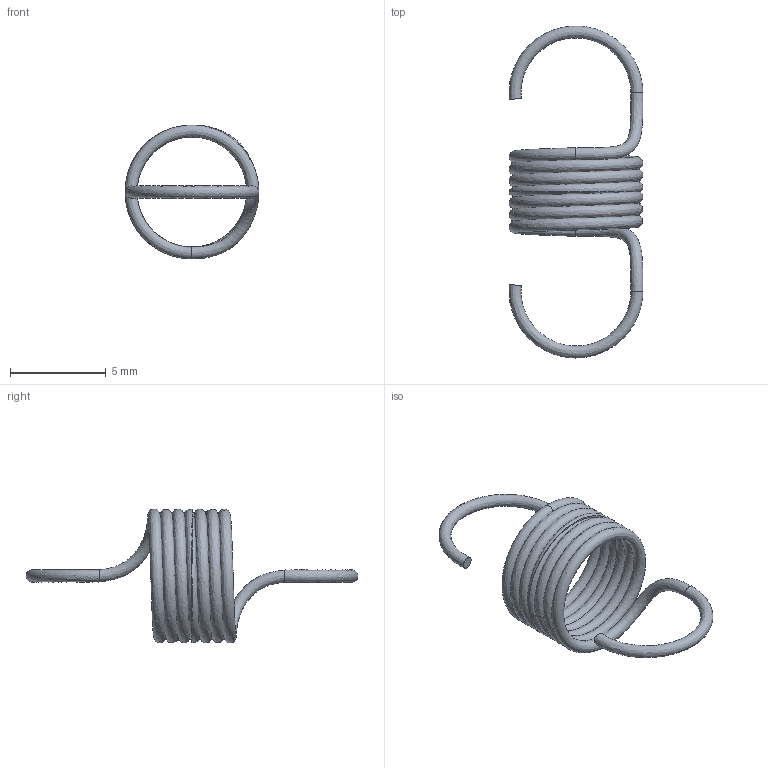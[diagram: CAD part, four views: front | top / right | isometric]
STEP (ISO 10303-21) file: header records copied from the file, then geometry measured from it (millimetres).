
FILE_DESCRIPTION(/* description */ ('12.2 | 0,62 | 0'),/* implementation_level */ '2;1');
FILE_NAME(/* name */ 'T10420.step',/* time_stamp */ '2026-10-05T09:48:21+02:00',/* author */ ('impex-ready.pl'),/* organization */ ('T10420'),/* preprocessor_version */ 'ST-DEVELOPER v20.1',/* originating_system */ 'Autodesk Inventor 2026',/* authorisation */ 'stal sprezynowa');
FILE_SCHEMA (('AUTOMOTIVE_DESIGN { 1 0 10303 214 3 1 1 }'));
Length unit declared in the file: millimetre
Products named in the file (1): T10420
Bounding box: 7 x 17.36 x 7 mm (x, y, z)
Volume: 50.2 mm3; surface area: 320.9 mm2
Topology: 1 solids, 1 shells, 10 faces, 32 edges, 20 vertices
Faces by surface type: bspline 6, plane 4
Entity records: 2476 total; most frequent: CARTESIAN_POINT 2188, ORIENTED_EDGE 64, DIRECTION 34, EDGE_CURVE 32, B_SPLINE_CURVE_WITH_KNOTS 20, VERTEX_POINT 20, AXIS2_PLACEMENT_3D 17, CIRCLE 12
